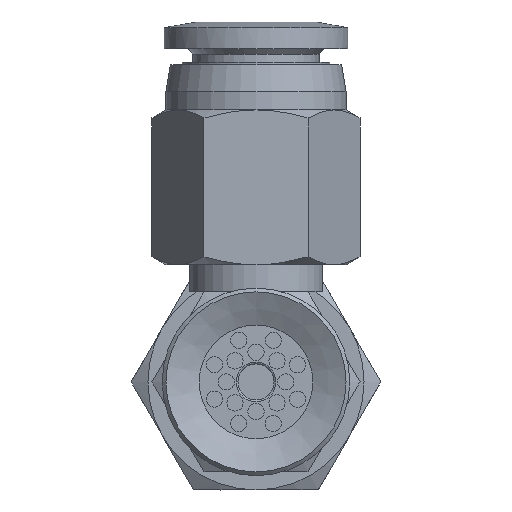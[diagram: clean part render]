
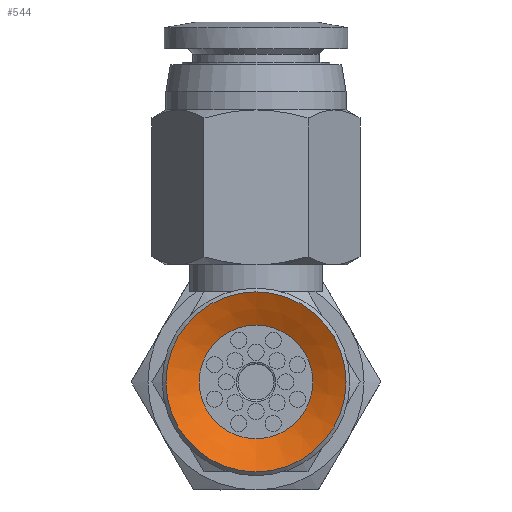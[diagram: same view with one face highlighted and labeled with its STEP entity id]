
A CAD part, front view. The second image highlights one B-rep face of the part: STEP entity #544.
In plain terms, the highlighted conical face has half-angle 64 degrees and reference radius 5 mm.
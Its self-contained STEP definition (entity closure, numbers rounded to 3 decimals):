
#544=ADVANCED_FACE('',(#878,#879),#880,.F.);
#878=FACE_BOUND('',#1367,.T.);
#879=FACE_OUTER_BOUND('',#1368,.T.);
#880=CONICAL_SURFACE('',#1369,5.0,1.117);
#1367=EDGE_LOOP('',(#2440));
#1368=EDGE_LOOP('',(#2441));
#1369=AXIS2_PLACEMENT_3D('',#2442,#2443,#2444);
#2440=ORIENTED_EDGE('',*,*,#3154,.T.);
#2441=ORIENTED_EDGE('',*,*,#3155,.F.);
#2442=CARTESIAN_POINT('',(0.0,0.,0.));
#2443=DIRECTION('',(0.0,0.,-1.0));
#2444=DIRECTION('',(0.0,1.0,0.));
#3154=EDGE_CURVE('',#3575,#3575,#3576,.T.);
#3155=EDGE_CURVE('',#3577,#3577,#3578,.T.);
#3575=VERTEX_POINT('',#4477);
#3576=CIRCLE('',#4478,3.155);
#3577=VERTEX_POINT('',#4479);
#3578=CIRCLE('',#4480,5.0);
#4477=CARTESIAN_POINT('',(0.0,-3.155,0.9));
#4478=AXIS2_PLACEMENT_3D('',#5293,#5294,#5295);
#4479=CARTESIAN_POINT('',(0.0,-5.0,0.));
#4480=AXIS2_PLACEMENT_3D('',#5296,#5297,#5298);
#5293=CARTESIAN_POINT('',(0.0,0.,0.9));
#5294=DIRECTION('',(0.0,0.,1.0));
#5295=DIRECTION('',(0.0,-1.0,0.));
#5296=CARTESIAN_POINT('',(0.0,0.,0.));
#5297=DIRECTION('',(0.0,0.,1.0));
#5298=DIRECTION('',(0.0,-1.0,0.));
